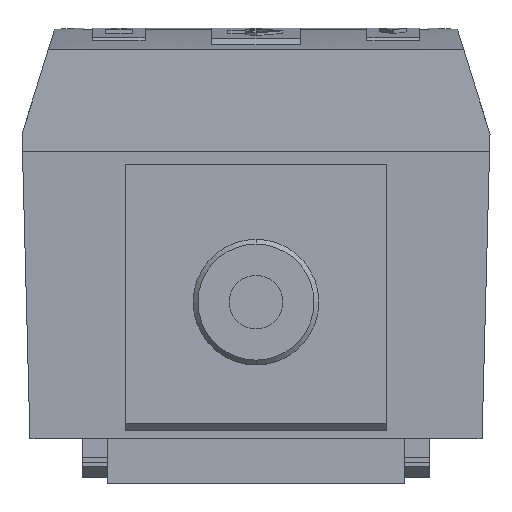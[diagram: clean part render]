
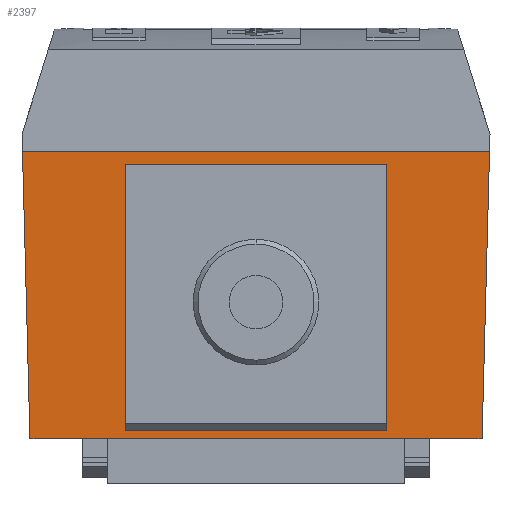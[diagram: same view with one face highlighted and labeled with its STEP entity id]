
A CAD part, front view. The second image highlights one B-rep face of the part: STEP entity #2397.
In plain terms, the highlighted planar face has unit normal (0, -1, -0.026).
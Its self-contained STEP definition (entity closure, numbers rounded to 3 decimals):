
#14=DIRECTION('',(-1.,0.,0.));
#15=VECTOR('',#14,22.2);
#16=CARTESIAN_POINT('',(11.1,-25.124,0.));
#17=LINE('',#16,#15);
#18=DIRECTION('',(-1.,0.,0.));
#19=VECTOR('',#18,5.804);
#20=CARTESIAN_POINT('',(-11.1,-25.124,0.));
#21=LINE('',#20,#19);
#22=DIRECTION('',(-0.026,-0.026,0.999));
#23=VECTOR('',#22,21.465);
#24=CARTESIAN_POINT('',(-16.904,-25.124,0.));
#25=LINE('',#24,#23);
#26=DIRECTION('',(0.026,-0.026,0.999));
#27=VECTOR('',#26,21.465);
#28=CARTESIAN_POINT('',(16.904,-25.124,0.));
#29=LINE('',#28,#27);
#30=DIRECTION('',(-1.,0.,0.));
#31=VECTOR('',#30,5.804);
#32=CARTESIAN_POINT('',(16.904,-25.124,0.));
#33=LINE('',#32,#31);
#34=DIRECTION('',(0.,0.026,-1.));
#35=VECTOR('',#34,19.948);
#36=CARTESIAN_POINT('',(-9.781,-25.661,20.511));
#37=LINE('',#36,#35);
#38=DIRECTION('',(1.,0.,0.));
#39=VECTOR('',#38,19.562);
#40=CARTESIAN_POINT('',(-9.781,-25.139,0.57));
#41=LINE('',#40,#39);
#42=DIRECTION('',(0.,0.026,-1.));
#43=VECTOR('',#42,19.948);
#44=CARTESIAN_POINT('',(9.781,-25.661,20.511));
#45=LINE('',#44,#43);
#46=DIRECTION('',(1.,0.,0.));
#47=VECTOR('',#46,19.562);
#48=CARTESIAN_POINT('',(-9.781,-25.661,20.511));
#49=LINE('',#48,#47);
#408=DIRECTION('',(-1.,0.,0.));
#409=VECTOR('',#408,34.931);
#410=CARTESIAN_POINT('',(17.466,-25.686,21.45));
#411=LINE('',#410,#409);
#1822=CARTESIAN_POINT('',(-16.904,-25.124,0.));
#1823=CARTESIAN_POINT('',(-17.466,-25.686,21.45));
#1824=VERTEX_POINT('',#1822);
#1825=VERTEX_POINT('',#1823);
#1826=CARTESIAN_POINT('',(16.904,-25.124,0.));
#1827=CARTESIAN_POINT('',(17.466,-25.686,21.45));
#1828=VERTEX_POINT('',#1826);
#1829=VERTEX_POINT('',#1827);
#2118=CARTESIAN_POINT('',(11.1,-25.124,0.));
#2119=CARTESIAN_POINT('',(-11.1,-25.124,0.));
#2120=VERTEX_POINT('',#2118);
#2121=VERTEX_POINT('',#2119);
#2262=CARTESIAN_POINT('',(-9.781,-25.661,20.511));
#2263=CARTESIAN_POINT('',(-9.781,-25.139,0.57));
#2264=VERTEX_POINT('',#2262);
#2265=VERTEX_POINT('',#2263);
#2266=CARTESIAN_POINT('',(9.781,-25.661,20.511));
#2267=CARTESIAN_POINT('',(9.781,-25.139,0.57));
#2268=VERTEX_POINT('',#2266);
#2269=VERTEX_POINT('',#2267);
#2368=CARTESIAN_POINT('',(20.,-25.124,0.));
#2369=DIRECTION('',(0.,-1.,-0.026));
#2370=DIRECTION('',(0.,-0.026,1.));
#2371=AXIS2_PLACEMENT_3D('',#2368,#2369,#2370);
#2372=PLANE('',#2371);
#2374=ORIENTED_EDGE('',*,*,#2373,.T.);
#2376=ORIENTED_EDGE('',*,*,#2375,.T.);
#2378=ORIENTED_EDGE('',*,*,#2377,.T.);
#2380=ORIENTED_EDGE('',*,*,#2379,.F.);
#2382=ORIENTED_EDGE('',*,*,#2381,.F.);
#2384=ORIENTED_EDGE('',*,*,#2383,.T.);
#2385=EDGE_LOOP('',(#2374,#2376,#2378,#2380,#2382,#2384));
#2386=FACE_OUTER_BOUND('',#2385,.F.);
#2388=ORIENTED_EDGE('',*,*,#2387,.T.);
#2390=ORIENTED_EDGE('',*,*,#2389,.T.);
#2392=ORIENTED_EDGE('',*,*,#2391,.F.);
#2394=ORIENTED_EDGE('',*,*,#2393,.F.);
#2395=EDGE_LOOP('',(#2388,#2390,#2392,#2394));
#2396=FACE_BOUND('',#2395,.F.);
#2397=ADVANCED_FACE('',(#2386,#2396),#2372,.T.);
#2373=EDGE_CURVE('',#2120,#2121,#17,.T.);
#2375=EDGE_CURVE('',#2121,#1824,#21,.T.);
#2377=EDGE_CURVE('',#1824,#1825,#25,.T.);
#2379=EDGE_CURVE('',#1829,#1825,#411,.T.);
#2381=EDGE_CURVE('',#1828,#1829,#29,.T.);
#2383=EDGE_CURVE('',#1828,#2120,#33,.T.);
#2387=EDGE_CURVE('',#2264,#2265,#37,.T.);
#2389=EDGE_CURVE('',#2265,#2269,#41,.T.);
#2391=EDGE_CURVE('',#2268,#2269,#45,.T.);
#2393=EDGE_CURVE('',#2264,#2268,#49,.T.);
